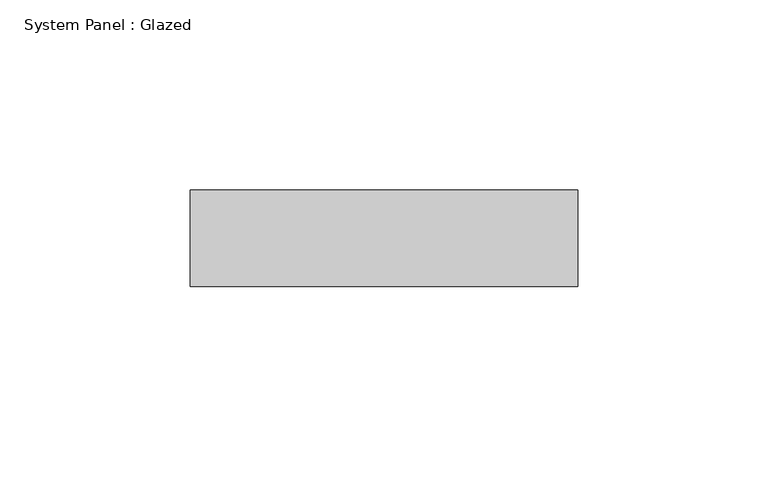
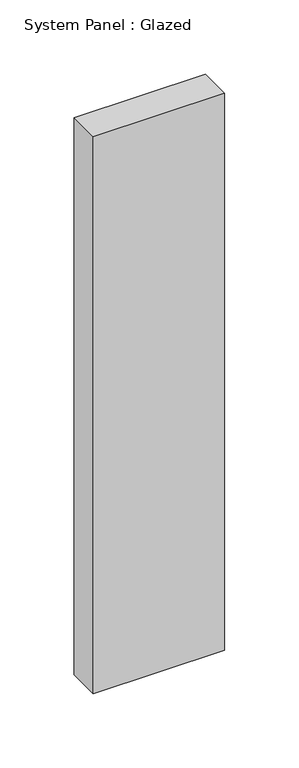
"""IFC4 building model written with IfcOpenShell, lengths in millimetres: plate geometry, System Panel : Glazed."""

from ifc_helpers import new_model, si_unit, origin, origin_with_axes, place, context, project, spatial, polyline, outline, extrude, source, transform, mapped, element, save


def system_panel_glazed_c5f20988(model_context):
    return source(origin(), model_context, "Body", "SweptSolid", [
        extrude(outline(polyline([(51.009195, -44.45), (-51.009195, -44.45), (-51.009195, -19.05), (51.009195, -19.05), (51.009195, -44.45)])), origin_with_axes(), (0.0, 0.0, 1.0), 457.2),
    ])


if __name__ == "__main__":
    model = new_model("IFC4")
    model_context = context("Model", 3, world=origin())
    ifc_project = project(units=[si_unit("LENGTHUNIT", "METRE", prefix="MILLI")], contexts=[model_context])
    site = spatial("IfcSite", under=ifc_project)
    building = spatial("IfcBuilding", under=site)
    placement = place(None, origin())
    system_panel_glazed_shape = system_panel_glazed_c5f20988(model_context)
    element("IfcPlate", 1, ObjectType="System Panel : Glazed", at=placement, inside=building, context=model_context, shape_type="MappedRepresentation", body=[
        mapped(system_panel_glazed_shape, transform((0.0, 0.0, 0.0), x_axis=(1.0, 0.0, 0.0), y_axis=(0.0, 1.0, 0.0), z_axis=(0.0, 0.0, 1.0))),
    ])
    save(model, "model.ifc")
